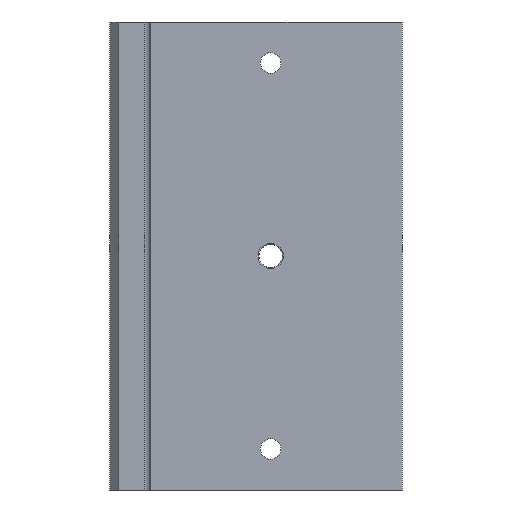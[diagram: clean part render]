
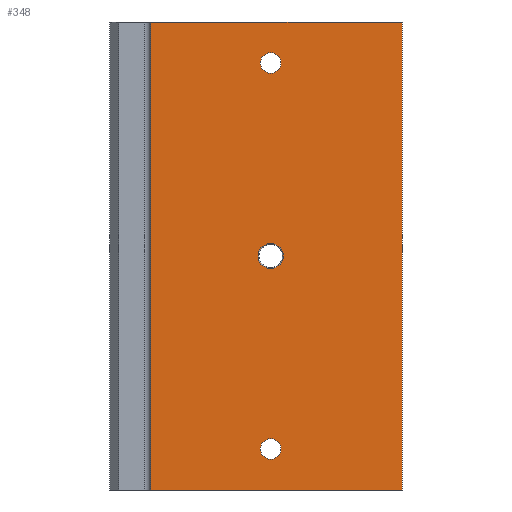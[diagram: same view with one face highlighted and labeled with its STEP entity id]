
A CAD part, left-side view. The second image highlights one B-rep face of the part: STEP entity #348.
In plain terms, the highlighted planar face has unit normal (-1, 0, 0).
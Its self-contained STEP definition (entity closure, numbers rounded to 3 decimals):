
#205=CARTESIAN_POINT('',(-24.561,12.504,8.75));
#206=VERTEX_POINT('',#205);
#207=CARTESIAN_POINT('',(-24.561,12.504,7.));
#208=DIRECTION('',(1.0,0.0,0.0));
#209=DIRECTION('',(0.0,0.0,-1.0));
#210=AXIS2_PLACEMENT_3D('',#207,#208,#209);
#211=CIRCLE('',#210,1.75);
#212=EDGE_CURVE('',#206,#206,#211,.T.);
#245=CARTESIAN_POINT('',(-24.561,12.504,74.75));
#246=VERTEX_POINT('',#245);
#247=CARTESIAN_POINT('',(-24.561,12.504,73.));
#248=DIRECTION('',(1.0,0.0,0.0));
#249=DIRECTION('',(0.0,0.0,-1.0));
#250=AXIS2_PLACEMENT_3D('',#247,#248,#249);
#251=CIRCLE('',#250,1.75);
#252=EDGE_CURVE('',#246,#246,#251,.T.);
#276=CARTESIAN_POINT('',(-24.561,12.504,42.15));
#277=VERTEX_POINT('',#276);
#278=CARTESIAN_POINT('',(-24.561,12.504,40.0));
#279=DIRECTION('',(-1.0,0.0,0.0));
#280=DIRECTION('',(0.0,0.0,-1.0));
#281=AXIS2_PLACEMENT_3D('',#278,#279,#280);
#282=CIRCLE('',#281,2.15);
#283=EDGE_CURVE('',#277,#277,#282,.T.);
#300=CARTESIAN_POINT('',(-24.561,-1.996,0.0));
#301=DIRECTION('',(-1.0,0.0,0.0));
#302=DIRECTION('',(0.0,0.0,1.0));
#303=AXIS2_PLACEMENT_3D('',#300,#301,#302);
#304=PLANE('',#303);
#305=CARTESIAN_POINT('',(-24.561,-9.996,80.0));
#306=VERTEX_POINT('',#305);
#307=CARTESIAN_POINT('',(-24.561,33.004,80.0));
#308=VERTEX_POINT('',#307);
#309=CARTESIAN_POINT('',(-24.561,-9.996,80.0));
#310=DIRECTION('',(0.0,1.0,0.0));
#311=VECTOR('',#310,43.);
#312=LINE('',#309,#311);
#313=EDGE_CURVE('',#306,#308,#312,.T.);
#314=ORIENTED_EDGE('',*,*,#313,.T.);
#315=CARTESIAN_POINT('',(-24.561,33.004,0.0));
#316=VERTEX_POINT('',#315);
#317=CARTESIAN_POINT('',(-24.561,33.004,0.0));
#318=DIRECTION('',(0.0,0.0,1.0));
#319=VECTOR('',#318,80.0);
#320=LINE('',#317,#319);
#321=EDGE_CURVE('',#316,#308,#320,.T.);
#322=ORIENTED_EDGE('',*,*,#321,.F.);
#323=CARTESIAN_POINT('',(-24.561,-9.996,0.0));
#324=VERTEX_POINT('',#323);
#325=CARTESIAN_POINT('',(-24.561,33.004,0.0));
#326=DIRECTION('',(0.0,-1.0,0.0));
#327=VECTOR('',#326,43.);
#328=LINE('',#325,#327);
#329=EDGE_CURVE('',#316,#324,#328,.T.);
#330=ORIENTED_EDGE('',*,*,#329,.T.);
#331=CARTESIAN_POINT('',(-24.561,-9.996,0.0));
#332=DIRECTION('',(0.0,0.0,1.0));
#333=VECTOR('',#332,80.0);
#334=LINE('',#331,#333);
#335=EDGE_CURVE('',#324,#306,#334,.T.);
#336=ORIENTED_EDGE('',*,*,#335,.T.);
#337=EDGE_LOOP('',(#314,#322,#330,#336));
#338=FACE_OUTER_BOUND('',#337,.T.);
#339=ORIENTED_EDGE('',*,*,#212,.T.);
#340=EDGE_LOOP('',(#339));
#341=FACE_BOUND('',#340,.T.);
#342=ORIENTED_EDGE('',*,*,#252,.T.);
#343=EDGE_LOOP('',(#342));
#344=FACE_BOUND('',#343,.T.);
#345=ORIENTED_EDGE('',*,*,#283,.F.);
#346=EDGE_LOOP('',(#345));
#347=FACE_BOUND('',#346,.T.);
#348=ADVANCED_FACE('',(#338,#341,#344,#347),#304,.T.);
